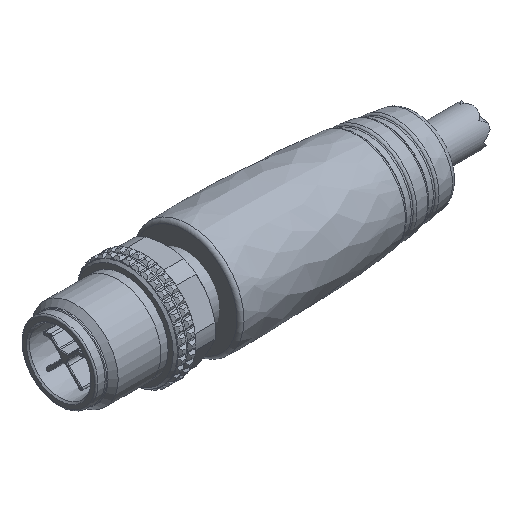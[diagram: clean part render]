
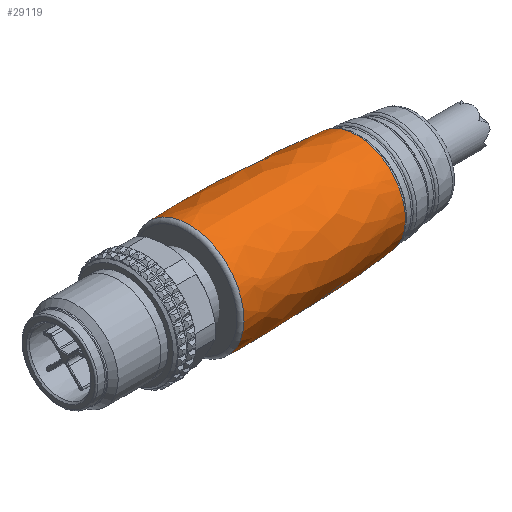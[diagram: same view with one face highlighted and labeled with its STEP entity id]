
A CAD part, isometric view. The second image highlights one B-rep face of the part: STEP entity #29119.
In plain terms, the highlighted free-form (B-spline) face has degree [2, 2] with [3, 9] control points.
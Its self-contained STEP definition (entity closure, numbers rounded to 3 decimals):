
#29055=CARTESIAN_POINT('',(14.982,7.601,0.0));
#29056=VERTEX_POINT('',#29055);
#29057=CARTESIAN_POINT('',(14.982,0.,0.0));
#29058=DIRECTION('',(1.,0.,0.0));
#29059=DIRECTION('',(0.,1.,0.0));
#29060=AXIS2_PLACEMENT_3D('',#29057,#29058,#29059);
#29061=CIRCLE('',#29060,7.601);
#29062=EDGE_CURVE('',#29056,#29056,#29061,.T.);
#29070=CARTESIAN_POINT('',(14.982,0.,7.601));
#29071=CARTESIAN_POINT('',(26.595,0.,8.009));
#29072=CARTESIAN_POINT('',(38.144,0.,6.735));
#29073=CARTESIAN_POINT('',(14.982,7.601,7.601));
#29074=CARTESIAN_POINT('',(26.595,8.009,8.009));
#29075=CARTESIAN_POINT('',(38.144,6.735,6.735));
#29076=CARTESIAN_POINT('',(14.982,7.601,0.));
#29077=CARTESIAN_POINT('',(26.595,8.009,0.));
#29078=CARTESIAN_POINT('',(38.144,6.735,0.));
#29079=CARTESIAN_POINT('',(14.982,7.601,-7.601));
#29080=CARTESIAN_POINT('',(26.595,8.009,-8.009));
#29081=CARTESIAN_POINT('',(38.144,6.735,-6.735));
#29082=CARTESIAN_POINT('',(14.982,0.,-7.601));
#29083=CARTESIAN_POINT('',(26.595,0.,-8.009));
#29084=CARTESIAN_POINT('',(38.144,0.,-6.735));
#29085=CARTESIAN_POINT('',(14.982,-7.601,-7.601));
#29086=CARTESIAN_POINT('',(26.595,-8.009,-8.009));
#29087=CARTESIAN_POINT('',(38.144,-6.735,-6.735));
#29088=CARTESIAN_POINT('',(14.982,-7.601,0.));
#29089=CARTESIAN_POINT('',(26.595,-8.009,0.));
#29090=CARTESIAN_POINT('',(38.144,-6.735,0.));
#29091=CARTESIAN_POINT('',(14.982,-7.601,7.601));
#29092=CARTESIAN_POINT('',(26.595,-8.009,8.009));
#29093=CARTESIAN_POINT('',(38.144,-6.735,6.735));
#29094=CARTESIAN_POINT('',(14.982,0.,7.601));
#29095=CARTESIAN_POINT('',(26.595,0.,8.009));
#29096=CARTESIAN_POINT('',(38.144,0.,6.735));
#29104=(BOUNDED_SURFACE()B_SPLINE_SURFACE(2,2,((#29070,#29073,#29076,#29079,#29082,#29085,#29088,#29091,#29094),(#29071,#29074,#29077,#29080,#29083,#29086,#29089,#29092,#29095),(#29072,#29075,#29078,#29081,#29084,#29087,#29090,#29093,#29096)),.UNSPECIFIED.,.F.,.T.,.U.)B_SPLINE_SURFACE_WITH_KNOTS((3,3),(3,2,2,2,3),(-0.035,0.11),(0.0,1.571,3.142,4.712,6.283),.UNSPECIFIED.)GEOMETRIC_REPRESENTATION_ITEM()RATIONAL_B_SPLINE_SURFACE(((1.0,0.707,1.0,0.707,1.0,0.707,1.0,0.707,1.0),(0.997,0.705,0.997,0.705,0.997,0.705,0.997,0.705,0.997),(1.0,0.707,1.0,0.707,1.0,0.707,1.0,0.707,1.0)))REPRESENTATION_ITEM('')SURFACE());
#29105=CARTESIAN_POINT('',(38.144,6.735,0.0));
#29106=VERTEX_POINT('',#29105);
#29107=CARTESIAN_POINT('',(38.144,0.,0.0));
#29108=DIRECTION('',(1.,0.,0.0));
#29109=DIRECTION('',(0.,1.,0.0));
#29110=AXIS2_PLACEMENT_3D('',#29107,#29108,#29109);
#29111=CIRCLE('',#29110,6.735);
#29112=EDGE_CURVE('',#29106,#29106,#29111,.T.);
#29113=ORIENTED_EDGE('',*,*,#29112,.F.);
#29114=EDGE_LOOP('',(#29113));
#29115=FACE_OUTER_BOUND('',#29114,.T.);
#29116=ORIENTED_EDGE('',*,*,#29062,.T.);
#29117=EDGE_LOOP('',(#29116));
#29118=FACE_BOUND('',#29117,.T.);
#29119=ADVANCED_FACE('',(#29115,#29118),#29104,.T.);
